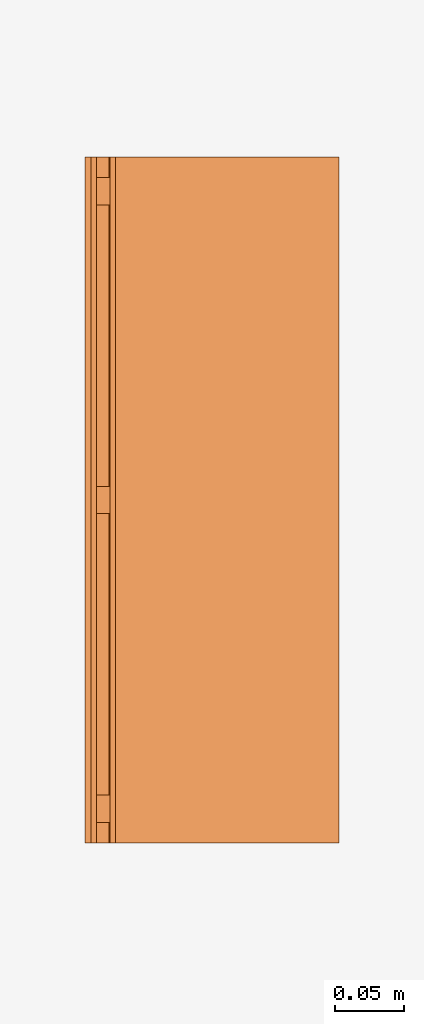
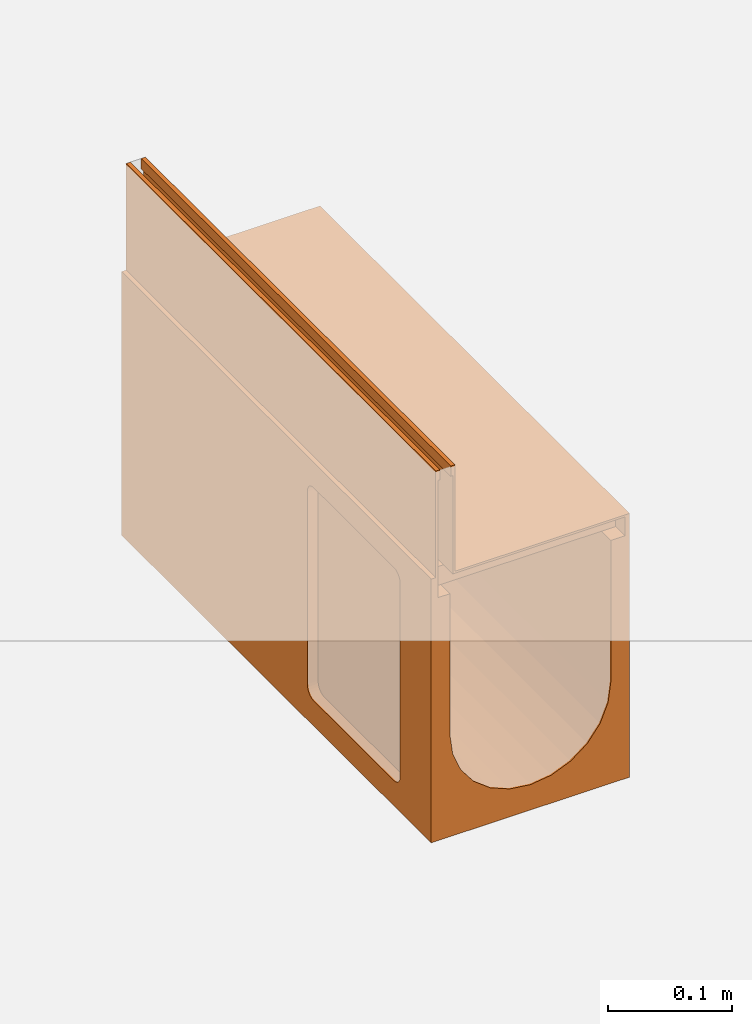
# One storey, part 2 of 2: 1 proxy.
"""IFC2X3 building model written with IfcOpenShell, lengths in millimetres."""

from ifc_helpers import new_model, entity, si_unit, converted_unit, direction, frame, origin, place, context, subcontext, project, spatial, faceted_brep, source, transform, mapped, material, material_list, element, save


model = new_model("IFC2X3")

# Units and contexts
model_context = context("Model", 3, precision=1e-06, world=origin(), true_north=direction((2.0, 6.12303176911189e-17, 1.0)))
context_of_model = context(None, 3, precision=1e-06, world=origin(), true_north=direction((2.0, 6.12303176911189e-17, 1.0)))
body_context = subcontext(model_context, "Body", "Model", "MODEL_VIEW")
ifc_project = project(units=[si_unit("LENGTHUNIT", "METRE", prefix="MILLI"), si_unit("AREAUNIT", "SQUARE_METRE", prefix="MILLI"), si_unit("VOLUMEUNIT", "CUBIC_METRE", prefix="MILLI"), converted_unit("PLANEANGLEUNIT", "DEGREE", entity("IfcRatioMeasure", 0.0174532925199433), si_unit("PLANEANGLEUNIT", "RADIAN"), dimensions=[0, 0, 0, 0, 0, 0, 0]), si_unit("TIMEUNIT", "SECOND")], contexts=[model_context, context_of_model])

# Site, building, storey
site_placement = place(None, origin())
site = spatial("IfcSite", under=ifc_project, at=site_placement, Name="Default", CompositionType="ELEMENT")
building_placement = place(site_placement, origin())
building = spatial("IfcBuilding", under=site, at=building_placement, CompositionType="ELEMENT")
storey_placement = place(building_placement, origin())
storey = spatial("IfcBuildingStorey", under=building, at=storey_placement, Name="Level 1", CompositionType="ELEMENT", Elevation=0.0)

# Proxy
ifc_material_1 = material(Name="Stainless Steel (F)")
ifc_material_2 = material(Name="Vienite® Synthetic Resin Concrete")
ifc_material_list = material_list([ifc_material_1, ifc_material_2])
shared_shape = source(origin(), body_context, "Body", "Brep", [
    faceted_brep([(88.2499999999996, 240.0, -107.0), (88.2499999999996, 242.0, -109.0), (88.2499999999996, 258.0, -109.0), (88.2499999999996, 260.0, -107.0), (88.2499999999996, 242.0, -123.499999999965), (88.2499999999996, 240.0, -125.499999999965), (88.2499999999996, 258.0, -123.499999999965), (88.2499999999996, 260.0, -125.499999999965), (-86.2500000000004, 240.0, -125.499999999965), (-86.2500000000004, 242.0, -123.499999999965), (-86.2500000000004, 258.0, -123.499999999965), (-86.2500000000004, 260.0, -125.499999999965), (-86.2500000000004, 242.0, -109.0), (-86.2500000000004, 240.0, -107.0), (-86.2500000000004, 258.0, -109.0), (-86.2500000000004, 260.0, -107.0)], [[[0, 1, 2, 3]], [[4, 1, 0, 5]], [[3, 2, 6, 7]], [[6, 4, 5, 7]], [[8, 9, 10, 11]], [[12, 9, 8, 13]], [[11, 10, 14, 15]], [[14, 12, 13, 15]], [[5, 0, 13, 8]], [[7, 5, 8, 11]], [[15, 3, 7, 11]], [[0, 3, 15, 13]], [[1, 4, 9, 12]], [[14, 2, 1, 12]], [[6, 2, 14, 10]], [[9, 4, 6, 10]]]),
    faceted_brep([(88.2500000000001, 465.0, -107.0), (88.2500000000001, 467.0, -109.0), (88.2500000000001, 483.0, -109.0), (88.2500000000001, 485.0, -107.0), (88.2500000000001, 467.0, -123.499999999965), (88.2500000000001, 465.0, -125.499999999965), (88.2500000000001, 483.0, -123.499999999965), (88.2500000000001, 485.0, -125.499999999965), (-86.2499999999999, 465.0, -125.499999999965), (-86.2499999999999, 467.0, -123.499999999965), (-86.2499999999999, 483.0, -123.499999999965), (-86.2499999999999, 485.0, -125.499999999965), (-86.2499999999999, 467.0, -109.0), (-86.2499999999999, 465.0, -107.0), (-86.2499999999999, 483.0, -109.0), (-86.2499999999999, 485.0, -107.0)], [[[0, 1, 2, 3]], [[4, 1, 0, 5]], [[3, 2, 6, 7]], [[6, 4, 5, 7]], [[8, 9, 10, 11]], [[12, 9, 8, 13]], [[11, 10, 14, 15]], [[14, 12, 13, 15]], [[5, 0, 13, 8]], [[7, 5, 8, 11]], [[3, 7, 11, 15]], [[0, 3, 15, 13]], [[1, 4, 9, 12]], [[14, 2, 1, 12]], [[6, 2, 14, 10]], [[9, 4, 6, 10]]]),
    faceted_brep([(-72.2500000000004, 0.0, -10.0), (-72.2500000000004, 0.0, -107.0), (-70.2500000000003, 0.0, -105.0), (-70.2500000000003, 0.0, 0.0), (-74.2500000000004, 0.0, 0.0), (-74.2500000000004, 0.0, -10.0), (88.2499999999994, 0.0, -107.0), (88.2499999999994, 0.0, -105.0), (-70.2500000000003, 500.0, -105.0), (88.2499999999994, 500.0, -105.0), (88.2499999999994, 500.0, -107.0), (-72.2500000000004, 500.0, -107.0), (-72.2500000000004, 500.0, -10.0), (-70.2500000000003, 500.0, 0.0), (-74.2500000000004, 500.0, -10.0), (-74.2500000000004, 500.0, 0.0)], [[[0, 1, 2, 3]], [[4, 5, 0, 3]], [[6, 7, 2, 1]], [[8, 9, 10, 11]], [[12, 13, 8, 11]], [[12, 14, 15, 13]], [[12, 0, 5, 14]], [[1, 0, 12, 11]], [[6, 1, 11, 10]], [[9, 7, 6, 10]], [[8, 2, 7, 9]], [[3, 2, 8, 13]], [[4, 3, 13, 15]], [[5, 4, 15, 14]]]),
    faceted_brep([(-84.2500000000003, 500.0, 0.0), (-84.2500000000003, 500.0, -10.0), (-86.2500000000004, 500.0, -10.0), (-88.2500000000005, 500.0, 0.0), (-88.2500000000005, 500.0, -125.499999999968), (-86.2500000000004, 500.0, -125.499999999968), (-86.2500000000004, 0.0, -10.0), (-88.2500000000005, 0.0, 0.0), (-88.2500000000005, 0.0, -125.499999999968), (-86.2500000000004, 0.0, -125.499999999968), (-84.2500000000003, 0.0, 0.0), (-84.2500000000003, 0.0, -10.0)], [[[0, 1, 2, 3]], [[4, 3, 2, 5]], [[6, 7, 8, 9]], [[10, 7, 6, 11]], [[5, 9, 8, 4]], [[6, 9, 5, 2]], [[1, 11, 6, 2]], [[10, 11, 1, 0]], [[7, 10, 0, 3]], [[4, 8, 7, 3]]]),
    faceted_brep([(88.2499999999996, 15.0, -107.0), (88.2499999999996, 17.0, -109.0), (88.2499999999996, 33.0, -109.0), (88.2499999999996, 35.0, -107.0), (88.2499999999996, 17.0, -123.499999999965), (88.2499999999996, 15.0, -125.499999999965), (88.2499999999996, 33.0, -123.499999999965), (88.2499999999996, 35.0, -125.499999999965), (-86.2500000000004, 15.0, -125.499999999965), (-86.2500000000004, 17.0, -123.499999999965), (-86.2500000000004, 33.0, -123.499999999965), (-86.2500000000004, 35.0, -125.499999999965), (-86.2500000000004, 17.0, -109.0), (-86.2500000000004, 15.0, -107.0), (-86.2500000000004, 33.0, -109.0), (-86.2500000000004, 35.0, -107.0)], [[[0, 1, 2, 3]], [[4, 1, 0, 5]], [[3, 2, 6, 7]], [[6, 4, 5, 7]], [[8, 9, 10, 11]], [[12, 9, 8, 13]], [[11, 10, 14, 15]], [[14, 12, 13, 15]], [[5, 0, 13, 8]], [[7, 5, 8, 11]], [[3, 7, 11, 15]], [[0, 3, 15, 13]], [[12, 1, 4, 9]], [[14, 2, 1, 12]], [[10, 6, 2, 14]], [[9, 4, 6, 10]]]),
    faceted_brep([(82.5000000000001, 57.411809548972, -339.659258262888), (82.5000000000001, 60.0, -340.0), (82.5000000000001, 50.0, -330.0), (82.5000000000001, 50.3407417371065, -332.588190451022), (82.5000000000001, 55.0, -338.660254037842), (82.5000000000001, 52.9289321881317, -337.071067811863), (82.5000000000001, 51.3397459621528, -335.0), (82.5000000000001, 200.0, -330.0), (82.5000000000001, 190.0, -340.0), (82.5000000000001, 192.588190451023, -339.659258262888), (82.5000000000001, 195.0, -338.660254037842), (82.5000000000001, 197.071067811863, -337.071067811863), (82.5000000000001, 198.660254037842, -335.0), (82.5000000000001, 199.659258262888, -332.588190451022), (82.5000000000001, 200.0, -140.0), (82.5000000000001, 50.0, -140.0), (82.5000000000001, 50.3407417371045, -137.411809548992), (82.5000000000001, 60.0, -130.0), (82.5000000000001, 52.9289321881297, -132.928932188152), (82.5000000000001, 51.3397459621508, -135.0), (82.5000000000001, 55.0, -131.339745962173), (82.5000000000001, 57.4118095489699, -130.340741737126), (82.5000000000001, 190.0, -130.0), (82.5000000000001, 199.65925826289, -137.411809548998), (82.5000000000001, 198.660254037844, -135.0), (82.5000000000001, 195.0, -131.339745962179), (82.5000000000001, 192.588190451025, -130.340741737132), (82.5000000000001, 197.071067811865, -132.928932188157), (92.5, 50.0, -140.0), (92.5000000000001, 50.0, -330.0), (92.5, 190.0, -130.0), (92.5000000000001, 60.0, -130.0), (92.5000000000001, 200.0, -140.0), (92.4999999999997, 200.0, -330.0), (92.4999999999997, 60.0, -340.0), (92.5000000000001, 190.0, -340.0), (88.25, 500.0, -125.500000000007), (88.2500000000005, 500.0, -105.0), (92.5, 500.0, -105.0), (92.4999999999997, 500.0, -365.0), (75.0, 500.0, -265.0), (75.0, 500.0, -125.500000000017), (-92.5, 500.0, -105.0), (-88.25, 500.0, -105.0), (-88.25, 500.0, -125.500000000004), (-92.5, 500.0, -365.0), (-75.0, 500.0, -125.500000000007), (-75.0, 500.0, -265.0), (72.44443697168, 500.0, -284.411428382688), (53.033008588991, 500.0, -318.03300858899), (64.9519052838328, 500.0, -302.499999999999), (37.5, 500.0, -329.951905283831), (0.0, 500.0, -340.0), (19.4114283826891, 500.0, -337.444436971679), (-64.9519052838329, 500.0, -302.499999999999), (-53.033008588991, 500.0, -318.03300858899), (-72.4444369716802, 500.0, -284.411428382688), (-37.4999999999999, 500.0, -329.951905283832), (-19.4114283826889, 500.0, -337.444436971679), (92.4999999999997, 0.0, -365.0), (19.4114283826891, 0.0, -337.444436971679), (0.0, 0.0, -340.0), (37.5, 0.0, -329.951905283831), (53.033008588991, 0.0, -318.03300858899), (64.9519052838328, 0.0, -302.499999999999), (72.44443697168, 0.0, -284.411428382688), (-19.4114283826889, 0.0, -337.444436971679), (-92.5, 0.0, -365.0), (-37.4999999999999, 0.0, -329.951905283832), (-53.033008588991, 0.0, -318.03300858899), (-64.9519052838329, 0.0, -302.499999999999), (-72.4444369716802, 0.0, -284.411428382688), (75.0, 0.0, -265.0), (88.25, 0.0, -125.500000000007), (75.0, 0.0, -125.500000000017), (92.5, 0.0, -105.0), (88.2500000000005, 0.0, -105.0), (-75.0, 0.0, -265.0), (-75.0, 0.0, -125.500000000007), (-88.25, 0.0, -125.500000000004), (-88.25, 0.0, -105.0), (-92.5, 0.0, -105.0), (-92.5, 51.339745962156, -135.0), (-92.5, 50.3407417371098, -137.411809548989), (-92.5, 52.928932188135, -132.928932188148), (-92.5, 50.0, -140.0), (-92.5, 50.0, -330.0), (-92.5, 60.0, -130.0), (-92.5, 57.4118095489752, -130.340741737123), (-92.5, 55.0, -131.339745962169), (-92.5, 190.0, -130.0), (-92.5, 50.3407417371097, -332.588190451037), (-92.5, 51.339745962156, -335.0), (-92.5, 52.9289321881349, -337.071067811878), (-92.5, 55.0, -338.660254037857), (-92.5, 57.4118095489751, -339.659258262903), (-92.5, 60.0, -340.0), (-92.5, 190.0, -340.0), (-92.5, 192.588190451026, -130.340741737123), (-92.5, 197.071067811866, -132.928932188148), (-92.5, 195.0, -131.339745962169), (-92.5, 198.660254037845, -135.0), (-92.5, 199.659258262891, -137.411809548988), (-92.5, 200.0, -140.0), (-92.5, 195.0, -338.660254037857), (-92.5, 197.071067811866, -337.071067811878), (-92.5, 192.588190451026, -339.659258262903), (-92.5, 199.659258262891, -332.588190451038), (-92.5, 200.0, -330.0), (-92.5, 198.660254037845, -335.0), (-20.7055236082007, 47.7259338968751, -365.0), (0.0, 45.0, -365.0), (-40.0, 55.7179676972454, -365.0), (-77.2740661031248, 104.294476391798, -365.0), (-69.2820323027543, 85.0, -365.0), (-56.5685424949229, 68.4314575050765, -365.0), (-80.0, 125.0, -365.0), (20.7055236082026, 47.7259338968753, -365.0), (40.0, 55.7179676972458, -365.0), (56.5685424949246, 68.4314575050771, -365.0), (69.2820323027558, 85.0, -365.0), (77.2740661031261, 104.294476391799, -365.0), (80.0, 125.0, -365.0), (-77.2740661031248, 145.705523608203, -365.0), (-69.2820323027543, 165.0, -365.0), (-56.5685424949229, 181.568542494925, -365.0), (-40.0, 194.282032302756, -365.0), (-20.7055236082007, 202.274066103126, -365.0), (0.0, 205.0, -365.0), (69.2820323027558, 165.0, -365.0), (56.5685424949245, 181.568542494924, -365.0), (77.2740661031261, 145.705523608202, -365.0), (20.7055236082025, 202.274066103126, -365.0), (40.0, 194.282032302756, -365.0), (92.4999999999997, 51.3397459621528, -335.0), (92.4999999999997, 50.3407417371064, -332.588190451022), (92.4999999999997, 52.9289321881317, -337.071067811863), (92.4999999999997, 57.411809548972, -339.659258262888), (92.4999999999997, 55.0, -338.660254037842), (92.5, 50.3407417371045, -137.411809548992), (92.5, 51.3397459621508, -135.0), (92.5, 52.9289321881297, -132.928932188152), (92.5, 55.0, -131.339745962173), (92.5, 57.4118095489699, -130.340741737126), (92.4999999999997, 192.588190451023, -339.659258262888), (92.4999999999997, 197.071067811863, -337.071067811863), (92.4999999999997, 195.0, -338.660254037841), (92.4999999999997, 198.660254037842, -335.0), (92.4999999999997, 199.659258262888, -332.588190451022), (92.5, 195.0, -131.339745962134), (92.5, 197.071067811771, -132.928932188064), (92.5, 192.588190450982, -130.340741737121), (92.5, 199.659258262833, -137.411809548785), (92.5, 198.660254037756, -135.0), (-82.5, 199.659258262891, -137.411809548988), (-82.5, 200.0, -140.0), (-82.5, 190.0, -130.0), (-82.5, 198.660254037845, -135.0), (-82.5, 192.588190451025, -130.340741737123), (-82.5, 195.0, -131.339745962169), (-82.5, 197.071067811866, -132.928932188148), (-82.5, 50.0, -330.0), (-82.5, 200.0, -330.0), (-82.5, 190.0, -340.0), (-82.5, 199.659258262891, -332.588190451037), (-82.5, 198.660254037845, -335.0), (-82.5, 195.0, -338.660254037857), (-82.5, 197.071067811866, -337.071067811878), (-82.5, 192.588190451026, -339.659258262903), (-82.5, 60.0, -130.0), (-82.5, 50.0, -140.0), (-82.5, 57.4118095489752, -130.340741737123), (-82.5, 55.0, -131.339745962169), (-82.5, 50.3407417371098, -137.411809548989), (-82.5, 51.339745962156, -135.0), (-82.5, 52.928932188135, -132.928932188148), (-82.5, 60.0, -340.0), (-82.5, 57.4118095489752, -339.659258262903), (-82.5, 55.0, -338.660254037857), (-82.5, 51.339745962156, -335.0), (-82.5, 50.3407417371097, -332.588190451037), (-82.5, 52.9289321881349, -337.071067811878), (-56.5685424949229, 181.568542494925, -355.0), (-40.0, 194.282032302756, -355.0), (-20.7055236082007, 202.274066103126, -355.0), (-69.2820323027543, 165.0, -355.0), (-80.0, 125.0, -355.0), (-77.2740661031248, 145.705523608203, -355.0), (56.5685424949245, 181.568542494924, -355.0), (80.0, 125.0, -355.0), (20.7055236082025, 202.274066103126, -355.0), (40.0, 194.282032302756, -355.0), (0.0, 205.0, -355.0), (69.2820323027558, 165.0, -355.0), (77.2740661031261, 145.705523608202, -355.0), (-56.5685424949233, 68.4314575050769, -355.0), (0.0, 45.0, -355.0), (-69.2820323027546, 85.0, -355.0), (-77.2740661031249, 104.294476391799, -355.0), (-20.7055236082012, 47.7259338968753, -355.0), (-40.0, 55.7179676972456, -355.0), (40.0, 55.7179676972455, -355.0), (20.7055236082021, 47.7259338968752, -355.0), (77.2740661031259, 104.294476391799, -355.0), (69.2820323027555, 85.0, -355.0), (56.5685424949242, 68.4314575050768, -355.0)], [[[0, 1, 2, 3]], [[4, 0, 5]], [[0, 3, 6, 5]], [[7, 2, 1, 8]], [[9, 10, 11, 8]], [[11, 12, 13, 7]], [[7, 8, 11]], [[2, 7, 14, 15]], [[16, 15, 17, 18]], [[19, 16, 18]], [[20, 18, 17, 21]], [[22, 17, 15, 14]], [[14, 23, 24, 22]], [[25, 26, 24, 27]], [[22, 24, 26]], [[2, 15, 28, 29]], [[17, 22, 30, 31]], [[32, 14, 7, 33]], [[8, 1, 34, 35]], [[36, 37, 38, 39]], [[40, 41, 36, 39]], [[42, 43, 44, 45]], [[44, 46, 47, 45]], [[40, 39, 48]], [[49, 50, 39]], [[51, 49, 39]], [[52, 53, 39, 45]], [[39, 53, 51]], [[50, 48, 39]], [[54, 55, 45]], [[56, 54, 45]], [[57, 58, 45]], [[45, 58, 52]], [[57, 45, 55]], [[56, 45, 47]], [[59, 60, 61]], [[60, 59, 62]], [[63, 62, 59]], [[64, 63, 59]], [[59, 65, 64]], [[61, 66, 67, 59]], [[67, 66, 68]], [[69, 70, 67]], [[68, 69, 67]], [[67, 70, 71]], [[72, 65, 59]], [[73, 74, 72, 59]], [[75, 76, 73, 59]], [[77, 78, 79, 67]], [[71, 77, 67]], [[79, 80, 81, 67]], [[43, 80, 79, 44]], [[81, 80, 43, 42]], [[81, 82, 83]], [[82, 81, 84]], [[83, 85, 81]], [[81, 85, 86]], [[87, 88, 81]], [[89, 84, 81]], [[88, 89, 81]], [[90, 87, 81, 42]], [[86, 91, 67, 81]], [[67, 92, 93]], [[92, 67, 91]], [[93, 94, 67]], [[95, 96, 67]], [[94, 95, 67]], [[67, 96, 97]], [[98, 90, 42]], [[99, 100, 42]], [[98, 42, 100]], [[101, 42, 102]], [[42, 101, 99]], [[103, 102, 42, 45]], [[104, 105, 45]], [[97, 106, 45, 67]], [[104, 45, 106]], [[107, 108, 45]], [[109, 45, 105]], [[45, 109, 107]], [[108, 103, 45]], [[67, 110, 111, 59]], [[110, 67, 112]], [[113, 114, 67]], [[115, 112, 67]], [[114, 115, 67]], [[67, 116, 113]], [[59, 117, 118]], [[117, 59, 111]], [[59, 118, 119]], [[119, 120, 59]], [[121, 122, 59]], [[120, 121, 59]], [[59, 122, 39]], [[123, 116, 45]], [[124, 123, 45]], [[125, 45, 126]], [[45, 125, 124]], [[127, 126, 45]], [[128, 127, 45, 39]], [[116, 67, 45]], [[129, 130, 39]], [[131, 129, 39]], [[132, 128, 39]], [[133, 39, 130]], [[39, 133, 132]], [[131, 39, 122]], [[59, 134, 135]], [[134, 59, 136]], [[135, 29, 59]], [[59, 29, 28]], [[34, 137, 59]], [[138, 136, 59]], [[137, 138, 59]], [[35, 34, 59, 39]], [[28, 139, 75, 59]], [[75, 140, 141]], [[140, 75, 139]], [[141, 142, 75]], [[143, 31, 75]], [[142, 143, 75]], [[75, 31, 30]], [[144, 35, 39]], [[145, 146, 39]], [[144, 39, 146]], [[147, 39, 148]], [[39, 147, 145]], [[33, 148, 39, 38]], [[149, 150, 38]], [[30, 151, 38, 75]], [[149, 38, 151]], [[152, 32, 38]], [[153, 38, 150]], [[38, 153, 152]], [[32, 33, 38]], [[76, 75, 38, 37]], [[73, 76, 37, 36]], [[41, 74, 73, 36]], [[40, 72, 74, 41]], [[46, 78, 77, 47]], [[44, 79, 78, 46]], [[48, 65, 72, 40]], [[50, 64, 65, 48]], [[51, 62, 63, 49]], [[49, 63, 64, 50]], [[53, 60, 62, 51]], [[60, 53, 52, 61]], [[57, 68, 66, 58]], [[55, 69, 68, 57]], [[56, 71, 70, 54]], [[54, 70, 69, 55]], [[47, 77, 71, 56]], [[58, 66, 61, 52]], [[154, 155, 156, 157]], [[156, 158, 159, 160]], [[160, 157, 156]], [[161, 155, 162, 163]], [[162, 164, 165, 163]], [[166, 165, 167]], [[166, 168, 163, 165]], [[169, 156, 155, 170]], [[171, 169, 170, 172]], [[173, 174, 175, 170]], [[172, 170, 175]], [[170, 155, 161]], [[176, 177, 178, 161]], [[179, 180, 161, 181]], [[178, 181, 161]], [[176, 161, 163]], [[85, 170, 161, 86]], [[90, 156, 169, 87]], [[108, 162, 155, 103]], [[96, 176, 163, 97]], [[180, 91, 86, 161]], [[179, 92, 91, 180]], [[92, 179, 181, 93]], [[178, 94, 93, 181]], [[177, 95, 94, 178]], [[95, 177, 176, 96]], [[168, 106, 97, 163]], [[166, 104, 106, 168]], [[104, 166, 167, 105]], [[165, 109, 105, 167]], [[164, 107, 109, 165]], [[107, 164, 162, 108]], [[154, 102, 103, 155]], [[157, 101, 102, 154]], [[101, 157, 160, 99]], [[159, 100, 99, 160]], [[158, 98, 100, 159]], [[98, 158, 156, 90]], [[171, 88, 87, 169]], [[172, 89, 88, 171]], [[89, 172, 175, 84]], [[174, 82, 84, 175]], [[173, 83, 82, 174]], [[83, 173, 170, 85]], [[16, 139, 28, 15]], [[19, 140, 139, 16]], [[140, 19, 18, 141]], [[20, 142, 141, 18]], [[21, 143, 142, 20]], [[143, 21, 17, 31]], [[26, 151, 30, 22]], [[25, 149, 151, 26]], [[149, 25, 27, 150]], [[24, 153, 150, 27]], [[23, 152, 153, 24]], [[152, 23, 14, 32]], [[13, 148, 33, 7]], [[12, 147, 148, 13]], [[147, 12, 11, 145]], [[10, 146, 145, 11]], [[9, 144, 146, 10]], [[144, 9, 8, 35]], [[0, 137, 34, 1]], [[4, 138, 137, 0]], [[138, 4, 5, 136]], [[6, 134, 136, 5]], [[3, 135, 134, 6]], [[135, 3, 2, 29]], [[182, 183, 184, 185]], [[186, 187, 185, 184]], [[188, 189, 184, 190]], [[191, 188, 190]], [[184, 192, 190]], [[188, 193, 194, 189]], [[195, 186, 184, 196]], [[195, 197, 198, 186]], [[195, 196, 199, 200]], [[196, 184, 201, 202]], [[203, 204, 205, 189]], [[189, 205, 201, 184]], [[194, 131, 122, 189]], [[193, 129, 131, 194]], [[191, 133, 130, 188]], [[188, 130, 129, 193]], [[190, 132, 133, 191]], [[132, 190, 192, 128]], [[184, 127, 128, 192]], [[183, 126, 127, 184]], [[185, 124, 125, 182]], [[182, 125, 126, 183]], [[187, 123, 124, 185]], [[123, 187, 186, 116]], [[198, 113, 116, 186]], [[197, 114, 113, 198]], [[200, 112, 115, 195]], [[195, 115, 114, 197]], [[199, 110, 112, 200]], [[110, 199, 196, 111]], [[202, 117, 111, 196]], [[201, 118, 117, 202]], [[204, 120, 119, 205]], [[205, 119, 118, 201]], [[203, 121, 120, 204]], [[203, 189, 122, 121]]]),
])
proxy_placement = place(storey_placement, frame((0.0, -230.0, 0.0)))
element("IfcBuildingElementProxy", 1, at=proxy_placement, inside=storey, material=ifc_material_list, Name="Civil-Drainage-Channel-ACO-MultiDrain-M150DS-Brickslot-Channel-System:24154 - No 10.1J Constant Depth Channel - 500mm LG - Invert Depth 235mm:24154 - No 10.1J Constant Depth Channel - 500mm LG - Invert Depth 235mm", ObjectType="24154 - No 10.1J Constant Depth Channel - 500mm LG - Invert Depth 235mm", CompositionType="ELEMENT", context=body_context, shape_type="MappedRepresentation", body=[
    mapped(shared_shape, transform((0.0, 0.0, 0.0), scale=1.0)),
])

save(model, "model.ifc")
